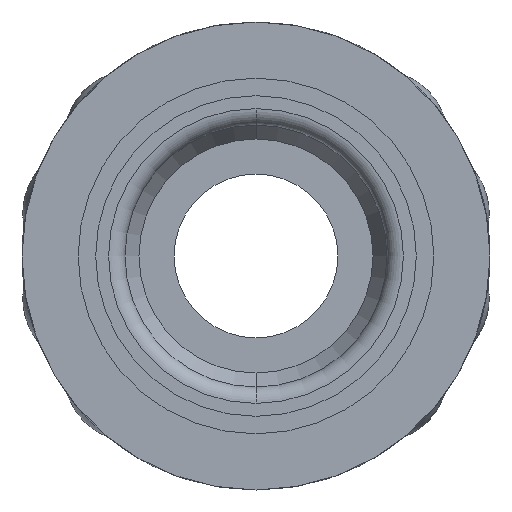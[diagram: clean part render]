
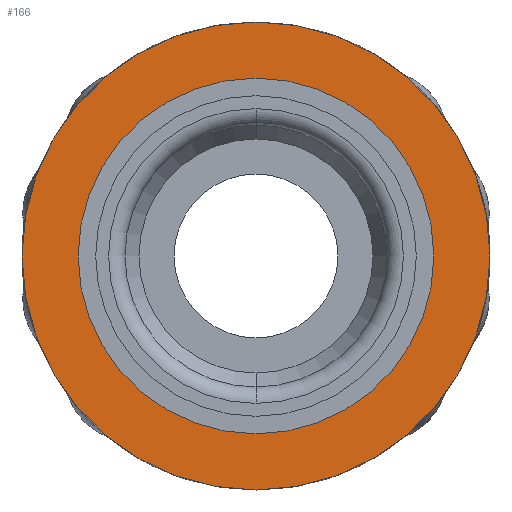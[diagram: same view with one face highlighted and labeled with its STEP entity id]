
A CAD part, front view. The second image highlights one B-rep face of the part: STEP entity #166.
In plain terms, the highlighted planar face has unit normal (0, -1, 0).
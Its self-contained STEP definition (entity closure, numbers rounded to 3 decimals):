
#32 = CARTESIAN_POINT ( 'NONE',  ( -423.93, -8722.704, 0. ) ) ;
#166 = ADVANCED_FACE ( 'NONE', ( #3432, #2016 ), #6422, .F. ) ;
#308 = CARTESIAN_POINT ( 'NONE',  ( -423.93, -8722.704, -6.85 ) ) ;
#419 = VERTEX_POINT ( 'NONE', #3604 ) ;
#490 = DIRECTION ( 'NONE',  ( 0., 1., 0. ) ) ;
#746 = DIRECTION ( 'NONE',  ( 0., -1., 0. ) ) ;
#1009 = ORIENTED_EDGE ( 'NONE', *, *, #1196, .T. ) ;
#1196 = EDGE_CURVE ( 'NONE', #419, #4149, #3018, .T. ) ;
#1631 = ORIENTED_EDGE ( 'NONE', *, *, #5049, .T. ) ;
#1698 = AXIS2_PLACEMENT_3D ( 'NONE', #5251, #2763, #6264 ) ;
#2016 = FACE_OUTER_BOUND ( 'NONE', #4231, .T. ) ;
#2149 = DIRECTION ( 'NONE',  ( 0., 0., 1. ) ) ;
#2227 = AXIS2_PLACEMENT_3D ( 'NONE', #32, #3512, #3970 ) ;
#2231 = CARTESIAN_POINT ( 'NONE',  ( -423.93, -8722.704, 6.85 ) ) ;
#2450 = EDGE_CURVE ( 'NONE', #3980, #4620, #2521, .T. ) ;
#2486 = CARTESIAN_POINT ( 'NONE',  ( 0., -8722.704, 0. ) ) ;
#2521 = CIRCLE ( 'NONE', #3761, 6.85 ) ;
#2763 = DIRECTION ( 'NONE',  ( 0., -1., 0. ) ) ;
#3018 = CIRCLE ( 'NONE', #1698, 10. ) ;
#3259 = CARTESIAN_POINT ( 'NONE',  ( -423.93, -8722.704, 0. ) ) ;
#3302 = EDGE_LOOP ( 'NONE', ( #5330, #3384 ) ) ;
#3306 = EDGE_CURVE ( 'NONE', #4620, #3980, #5491, .T. ) ;
#3384 = ORIENTED_EDGE ( 'NONE', *, *, #2450, .F. ) ;
#3432 = FACE_BOUND ( 'NONE', #3302, .T. ) ;
#3512 = DIRECTION ( 'NONE',  ( 0., -1., 0. ) ) ;
#3604 = CARTESIAN_POINT ( 'NONE',  ( -423.93, -8722.704, 10. ) ) ;
#3645 = CIRCLE ( 'NONE', #2227, 10. ) ;
#3761 = AXIS2_PLACEMENT_3D ( 'NONE', #3259, #746, #6205 ) ;
#3964 = AXIS2_PLACEMENT_3D ( 'NONE', #5485, #4133, #2149 ) ;
#3970 = DIRECTION ( 'NONE',  ( 0., 0., -1. ) ) ;
#3980 = VERTEX_POINT ( 'NONE', #2231 ) ;
#3999 = DIRECTION ( 'NONE',  ( 0., 0., 1. ) ) ;
#4133 = DIRECTION ( 'NONE',  ( 0., -1., 0. ) ) ;
#4149 = VERTEX_POINT ( 'NONE', #5986 ) ;
#4231 = EDGE_LOOP ( 'NONE', ( #1631, #1009 ) ) ;
#4620 = VERTEX_POINT ( 'NONE', #308 ) ;
#5049 = EDGE_CURVE ( 'NONE', #4149, #419, #3645, .T. ) ;
#5251 = CARTESIAN_POINT ( 'NONE',  ( -423.93, -8722.704, 0. ) ) ;
#5330 = ORIENTED_EDGE ( 'NONE', *, *, #3306, .F. ) ;
#5485 = CARTESIAN_POINT ( 'NONE',  ( -423.93, -8722.704, 0. ) ) ;
#5491 = CIRCLE ( 'NONE', #3964, 6.85 ) ;
#5986 = CARTESIAN_POINT ( 'NONE',  ( -423.93, -8722.704, -10. ) ) ;
#6205 = DIRECTION ( 'NONE',  ( 0., 0., 1. ) ) ;
#6264 = DIRECTION ( 'NONE',  ( 0., 0., -1. ) ) ;
#6422 = PLANE ( 'NONE',  #6467 ) ;
#6467 = AXIS2_PLACEMENT_3D ( 'NONE', #2486, #490, #3999 ) ;
